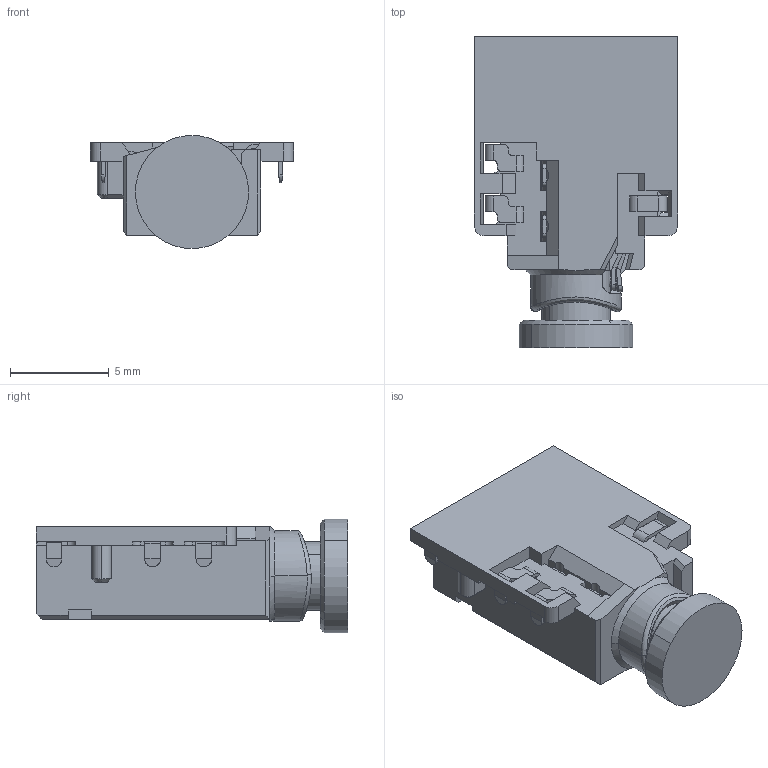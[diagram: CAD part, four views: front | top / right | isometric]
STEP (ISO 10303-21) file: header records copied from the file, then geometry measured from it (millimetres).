
FILE_DESCRIPTION((''),'2;1');
FILE_NAME('J3B-33_1_55RING_MIC_-3D2208023_ASM','2022-08-23T',('A'),(''),'PRO/ENGINEER BY PARAMETRIC TECHNOLOGY CORPORATION, 2011310','PRO/ENGINEER BY PARAMETRIC TECHNOLOGY CORPORATION, 2011310','');
FILE_SCHEMA(('CONFIG_CONTROL_DESIGN'));
Length unit declared in the file: millimetre
Products named in the file (4): 3_5MM_PLUG; __1_55_RING_____MIC_____; J3B-33___1_55RING_____MIC_____-_ASM; J3B-33_1_55RING_MIC_-3D2208023_ASM
Assembly tree (3 placements, depth 3):
  J3B-33_1_55RING_MIC_-3D2208023_ASM
    J3B-33___1_55RING_____MIC_____-_ASM
      3_5MM_PLUG
      __1_55_RING_____MIC_____
Bounding box: 10.3 x 15.8 x 5.74 mm (x, y, z)
Volume: 451.2 mm3; surface area: 997 mm2
Topology: 2 solids, 5 shells, 685 faces, 2033 edges, 1344 vertices
Faces by surface type: plane 401, cylinder 182, bspline 53, cone 22, torus 16, sphere 8, extrusion 3
Entity records: 26336 total; most frequent: CARTESIAN_POINT 8194, ORIENTED_EDGE 3852, DIRECTION 3541, EDGE_CURVE 1926, VECTOR 1357, LINE 1354, VERTEX_POINT 1243, AXIS2_PLACEMENT_3D 1092
